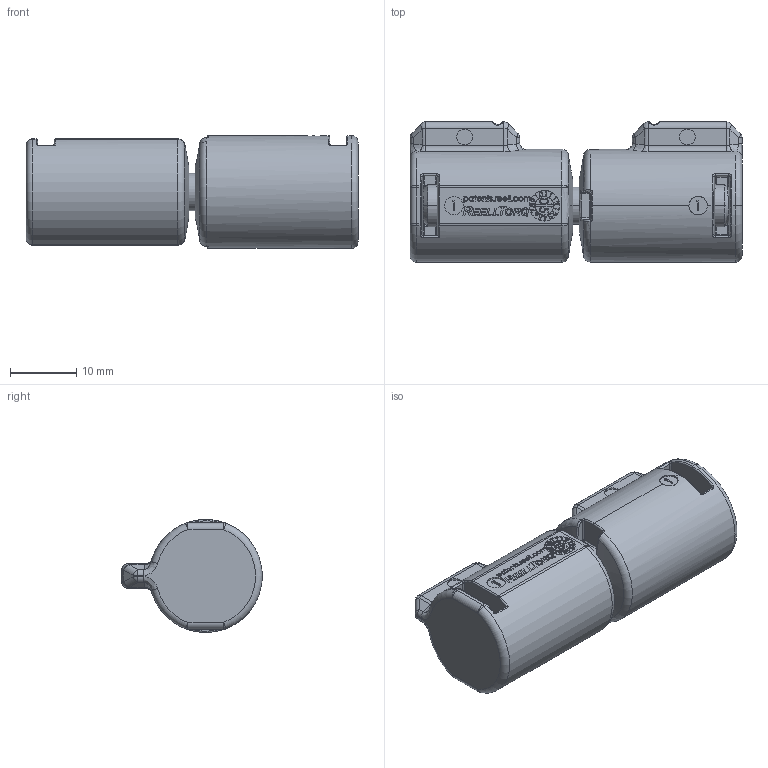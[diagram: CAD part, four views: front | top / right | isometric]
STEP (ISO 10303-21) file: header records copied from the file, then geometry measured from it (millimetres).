
FILE_DESCRIPTION (( 'STEP AP203' ), '1' );
FILE_NAME ('102790.STEP', '2020-09-22T19:15:52', ( 'Reell' ), ( '' ), 'SwSTEP 2.0', 'SolidWorks 2017', '' );
FILE_SCHEMA (( 'CONFIG_CONTROL_DESIGN' ));
Length unit declared in the file: millimetre
Products named in the file (8): 102729; 102774; 102767; 102763; 102790; 102766; 102765; 102731
Assembly tree (7 placements, depth 6):
  102790
    102774
      102765
        102763
          102731
            102729
      102767
      102766
Bounding box: 50 x 21.15 x 17 mm (x, y, z)
Volume: 11223.4 mm3; surface area: 5648.4 mm2
Topology: 3 solids, 3 shells, 1009 faces, 2537 edges, 1615 vertices
Faces by surface type: plane 456, bspline 386, cylinder 119, sphere 24, cone 12, torus 12
Entity records: 48995 total; most frequent: CARTESIAN_POINT 26780, ORIENTED_EDGE 5066, DIRECTION 3241, EDGE_CURVE 2533, VERTEX_POINT 1615, VECTOR 1457, LINE 1457, EDGE_LOOP 1098
